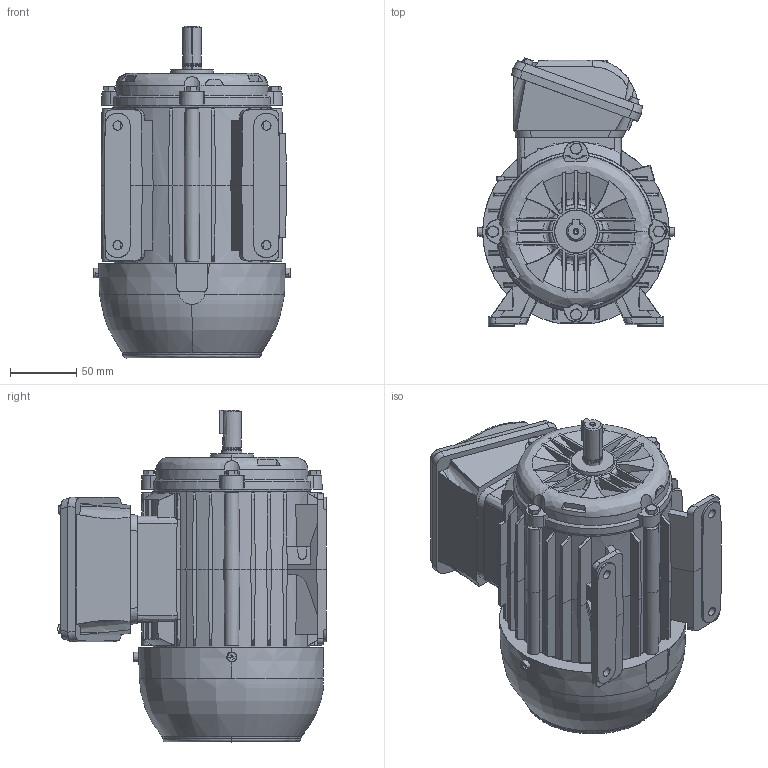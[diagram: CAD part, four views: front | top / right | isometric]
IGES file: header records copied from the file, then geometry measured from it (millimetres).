
Start section: SolidWorks IGES file using analytic representation for surfaces
Global section: file name: C:\Users\ianr\Documents\Trabalho de Implantação de linha\Wwash\IEC\02_FRAME_71\STANDARD\IGS\71_TOP.IGS; native system: SolidWorks 2012; preprocessor: SolidWorks 2012; author: ianr; date: 131031.112155; units: millimetre
Bounding box: 147.9 x 201.98 x 250 mm (x, y, z)
Surface area: 295679.9 mm2 (no closed solid volume)
Topology: 0 solids, 0 shells, 1540 faces, 14759 edges, 14757 vertices
Faces by surface type: bspline 1141, revolution 399
